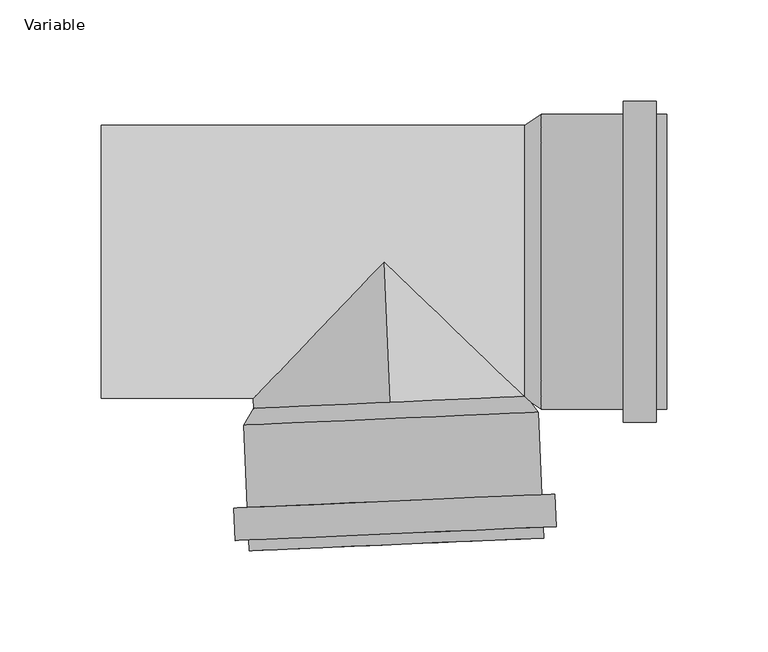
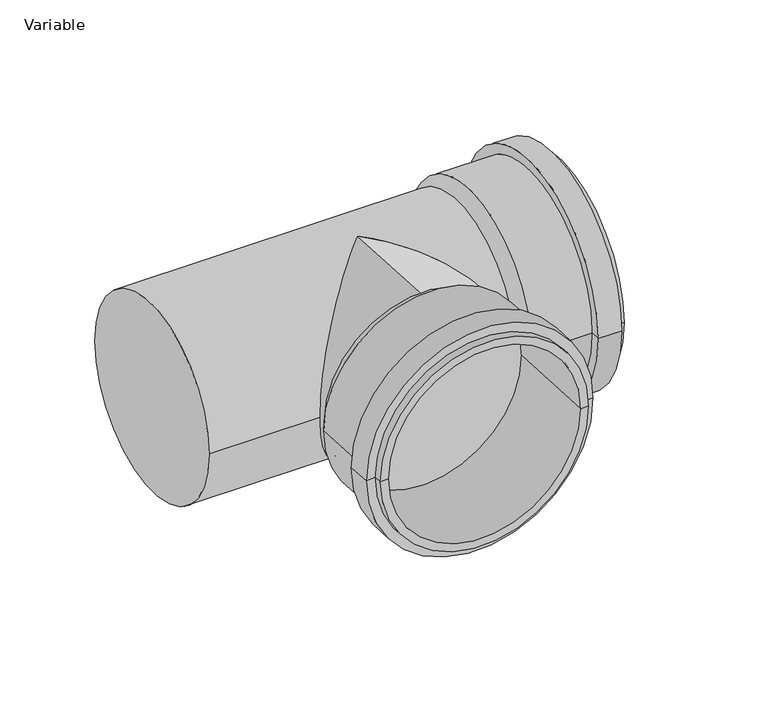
"""IFC4 building model written with IfcOpenShell, lengths in millimetres: pipe fitting geometry, AliaxisFR_Friaphon_Branch_FR : Variable."""

from ifc_helpers import new_model, si_unit, frame, origin, place, context, project, spatial, polyline, circle_curve, ellipse_curve, source, transform, mapped, element, save
from ifc_brep_helpers import plane_surface, cylinder_surface, revolved_surface, advanced_brep


def variable_329a7576(model_context):
    return source(origin(), model_context, "Body", "AdvancedBrep", [
        advanced_brep(
        [(-66.7239011, -143.0466044, 0.0), (78.9373296, -136.6868977, 0.0), (73.5424692, -136.9224424, 0.0), (-61.3290407, -142.8110597, 0.0), (-74.2554362, -121.8549556, 0.0), (84.593231, -114.919473, 0.0), (85.2955032, -131.0041493, 0.0), (-73.5531641, -137.9396319, 0.0), (-67.661718, -121.5670676, 0.0), (77.9995128, -115.2073609, 0.0), (-69.441389, -80.8059002, 0.0), (76.2198418, -74.4461935, 0.0), (70.4716643, -66.5894476, 0.0), (-64.3998456, -72.4780649, 0.0), (-66.9594458, -137.651744, 0.0), (78.7017849, -131.2920373, 0.0)],
        [
            (0, 1, circle_curve(frame((6.1067142, -139.866751, 0.0), z_axis=(0.04361938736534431, -0.9990482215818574, 0.0), x_axis=(0.9990482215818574, 0.04361938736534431, 0.0)), 72.9)),
            (1, 2),
            (2, 3, circle_curve(frame((6.1067142, -139.866751, 0.0), z_axis=(-0.04361938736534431, 0.9990482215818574, 0.0), x_axis=(0.9990482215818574, 0.04361938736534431, 0.0)), 67.5)),
            (3, 0),
            (1, 0, circle_curve(frame((6.1067142, -139.866751, 0.0), z_axis=(0.04361938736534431, -0.9990482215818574, 0.0), x_axis=(0.9990482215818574, 0.04361938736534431, 0.0)), 72.9)),
            (3, 2, circle_curve(frame((6.1067142, -139.866751, 0.0), z_axis=(-0.04361938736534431, 0.9990482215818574, 0.0), x_axis=(0.9990482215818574, 0.04361938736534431, 0.0)), 67.5)),
            (4, 5, circle_curve(frame((5.1688974, -118.3872143, 0.0), z_axis=(0.04361938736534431, -0.9990482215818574, 0.0), x_axis=(0.9990482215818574, 0.04361938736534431, 0.0)), 79.5)),
            (5, 6),
            (6, 7, circle_curve(frame((5.8711695, -134.4718906, 0.0), z_axis=(-0.04361938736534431, 0.9990482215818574, 0.0), x_axis=(0.9990482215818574, 0.04361938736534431, 0.0)), 79.5)),
            (7, 4),
            (5, 4, circle_curve(frame((5.1688974, -118.3872143, 0.0), z_axis=(0.04361938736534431, -0.9990482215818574, 0.0), x_axis=(0.9990482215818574, 0.04361938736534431, 0.0)), 79.5)),
            (7, 6, circle_curve(frame((5.8711695, -134.4718906, 0.0), z_axis=(-0.04361938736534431, 0.9990482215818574, 0.0), x_axis=(0.9990482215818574, 0.04361938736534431, 0.0)), 79.5)),
            (8, 9, circle_curve(frame((5.1688974, -118.3872143, 0.0), z_axis=(0.04361938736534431, -0.9990482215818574, 0.0), x_axis=(0.9990482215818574, 0.04361938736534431, 0.0)), 72.9)),
            (9, 5),
            (4, 8),
            (9, 8, circle_curve(frame((5.1688974, -118.3872143, 0.0), z_axis=(0.04361938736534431, -0.9990482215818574, 0.0), x_axis=(0.9990482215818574, 0.04361938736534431, 0.0)), 72.9)),
            (10, 11, circle_curve(frame((3.3892264, -77.6260468, 0.0), z_axis=(0.04361938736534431, -0.9990482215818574, 0.0), x_axis=(0.9990482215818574, 0.04361938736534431, 0.0)), 72.9)),
            (11, 9),
            (8, 10),
            (11, 10, circle_curve(frame((3.3892264, -77.6260468, 0.0), z_axis=(0.04361938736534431, -0.9990482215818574, 0.0), x_axis=(0.9990482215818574, 0.04361938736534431, 0.0)), 72.9)),
            (2, 12),
            (12, 13, circle_curve(frame((3.0359094, -69.5337562, 0.0), z_axis=(-0.04361938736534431, 0.9990482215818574, 0.0), x_axis=(0.9990482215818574, 0.04361938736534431, 0.0)), 67.5)),
            (13, 3),
            (13, 12, circle_curve(frame((3.0359094, -69.5337562, 0.0), z_axis=(-0.04361938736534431, 0.9990482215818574, 0.0), x_axis=(0.9990482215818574, 0.04361938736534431, 0.0)), 67.5)),
            (12, 11),
            (10, 13),
            (14, 15, circle_curve(frame((5.8711695, -134.4718906, 0.0), z_axis=(0.04361938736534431, -0.9990482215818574, 0.0), x_axis=(0.9990482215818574, 0.04361938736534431, 0.0)), 72.9)),
            (15, 1),
            (0, 14),
            (15, 14, circle_curve(frame((5.8711695, -134.4718906, 0.0), z_axis=(0.04361938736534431, -0.9990482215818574, 0.0), x_axis=(0.9990482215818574, 0.04361938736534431, 0.0)), 72.9)),
            (6, 15),
            (14, 7),
        ],
        [
            plane_surface(frame((6.1067142, -139.866751, 0.0), z_axis=(0.04361938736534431, -0.9990482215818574, 0.0), x_axis=(0.9990482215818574, 0.04361938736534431, 0.0))),
            cylinder_surface(frame((3.0359094, -69.5337562, 0.0), z_axis=(-0.04361938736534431, 0.9990482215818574, 0.0), x_axis=(0.9990482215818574, 0.04361938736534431, 0.0)), 79.5),
            plane_surface(frame((5.1688974, -118.3872143, 0.0), z_axis=(-0.04361938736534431, 0.9990482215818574, 0.0), x_axis=(0.9990482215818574, 0.04361938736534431, 0.0))),
            cylinder_surface(frame((3.0359094, -69.5337562, 0.0), z_axis=(-0.04361938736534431, 0.9990482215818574, 0.0), x_axis=(0.9990482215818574, 0.04361938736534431, 0.0)), 72.9),
            revolved_surface(polyline([(70.47166435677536, -66.58944755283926, 0.0), (73.54246922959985, -136.9224424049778, 0.0)]), (3.0359094, -69.5337562, 0.0), (-0.04361938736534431, 0.9990482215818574, 0.0)),
            revolved_surface(polyline([(76.2198418, -74.4461935, 0.0), (70.4716643, -66.5894476, 0.0)]), (3.0359094, -69.5337562, 0.0), (-0.04361938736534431, 0.9990482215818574, 0.0)),
            plane_surface(frame((5.8711695, -134.4718906, 0.0), z_axis=(0.04361938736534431, -0.9990482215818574, 0.0), x_axis=(0.9990482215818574, 0.04361938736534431, 0.0))),
        ],
        [
            (0, [[1, 2, 3, 4]]),
            (0, [[5, -4, 6, -2]]),
            (1, [[7, 8, 9, 10]]),
            (1, [[11, -10, 12, -8]]),
            (2, [[13, 14, -7, 15]]),
            (2, [[16, -15, -11, -14]]),
            (3, [[17, 18, -13, 19]]),
            (3, [[20, -19, -16, -18]]),
            (4, [[-3, 21, 22, 23]]),
            (4, [[-6, -23, 24, -21]]),
            (5, [[-22, 25, -17, 26]]),
            (5, [[-24, -26, -20, -25]]),
            (3, [[27, 28, -1, 29]]),
            (3, [[30, -29, -5, -28]]),
            (6, [[-9, 31, -27, 32]]),
            (6, [[-12, -32, -30, -31]]),
        ],
    ),
        advanced_brep(
        [(140.0, -72.9, 0.0), (140.0, 72.9, 0.0), (140.0, 67.5, 0.0), (140.0, -67.5, 0.0), (118.5, -79.5, 0.0), (118.5, 79.5, 0.0), (134.6, 79.5, 0.0), (134.6, -79.5, 0.0), (118.5, -72.9, 0.0), (118.5, 72.9, 0.0), (77.7, -72.9, 0.0), (77.7, 72.9, 0.0), (69.6, 67.5, 0.0), (69.6, -67.5, 0.0), (134.6, -72.9, 0.0), (134.6, 72.9, 0.0)],
        [
            (0, 1, circle_curve(frame((140.0, 0.0, 0.0), z_axis=(1.0, 0.0, 0.0), x_axis=(0.0, 1.0, 0.0)), 72.9)),
            (1, 2),
            (2, 3, circle_curve(frame((140.0, 0.0, 0.0), z_axis=(-1.0, 0.0, 0.0), x_axis=(0.0, 1.0, 0.0)), 67.5)),
            (3, 0),
            (1, 0, circle_curve(frame((140.0, 0.0, 0.0), z_axis=(1.0, 0.0, 0.0), x_axis=(0.0, 1.0, 0.0)), 72.9)),
            (3, 2, circle_curve(frame((140.0, 0.0, 0.0), z_axis=(-1.0, 0.0, 0.0), x_axis=(0.0, 1.0, 0.0)), 67.5)),
            (4, 5, circle_curve(frame((118.5, 0.0, 0.0), z_axis=(1.0, 0.0, 0.0), x_axis=(0.0, 1.0, 0.0)), 79.5)),
            (5, 6),
            (6, 7, circle_curve(frame((134.6, 0.0, 0.0), z_axis=(-1.0, 0.0, 0.0), x_axis=(0.0, 1.0, 0.0)), 79.5)),
            (7, 4),
            (5, 4, circle_curve(frame((118.5, 0.0, 0.0), z_axis=(1.0, 0.0, 0.0), x_axis=(0.0, 1.0, 0.0)), 79.5)),
            (7, 6, circle_curve(frame((134.6, 0.0, 0.0), z_axis=(-1.0, 0.0, 0.0), x_axis=(0.0, 1.0, 0.0)), 79.5)),
            (8, 9, circle_curve(frame((118.5, 0.0, 0.0), z_axis=(1.0, 0.0, 0.0), x_axis=(0.0, 1.0, 0.0)), 72.9)),
            (9, 5),
            (4, 8),
            (9, 8, circle_curve(frame((118.5, 0.0, 0.0), z_axis=(1.0, 0.0, 0.0), x_axis=(0.0, 1.0, 0.0)), 72.9)),
            (10, 11, circle_curve(frame((77.7, 0.0, 0.0), z_axis=(1.0, 0.0, 0.0), x_axis=(0.0, 1.0, 0.0)), 72.9)),
            (11, 9),
            (8, 10),
            (11, 10, circle_curve(frame((77.7, 0.0, 0.0), z_axis=(1.0, 0.0, 0.0), x_axis=(0.0, 1.0, 0.0)), 72.9)),
            (2, 12),
            (12, 13, circle_curve(frame((69.6, 0.0, 0.0), z_axis=(-1.0, 0.0, 0.0), x_axis=(0.0, 1.0, 0.0)), 67.5)),
            (13, 3),
            (13, 12, circle_curve(frame((69.6, 0.0, 0.0), z_axis=(-1.0, 0.0, 0.0), x_axis=(0.0, 1.0, 0.0)), 67.5)),
            (12, 11),
            (10, 13),
            (14, 15, circle_curve(frame((134.6, 0.0, 0.0), z_axis=(1.0, 0.0, 0.0), x_axis=(0.0, 1.0, 0.0)), 72.9)),
            (15, 1),
            (0, 14),
            (15, 14, circle_curve(frame((134.6, 0.0, 0.0), z_axis=(1.0, 0.0, 0.0), x_axis=(0.0, 1.0, 0.0)), 72.9)),
            (6, 15),
            (14, 7),
        ],
        [
            plane_surface(frame((140.0, 0.0, 0.0), z_axis=(1.0, 0.0, 0.0), x_axis=(0.0, 1.0, 0.0))),
            cylinder_surface(frame((69.6, 0.0, 0.0), z_axis=(-1.0, 0.0, 0.0), x_axis=(0.0, 1.0, 0.0)), 79.5),
            plane_surface(frame((118.5, 0.0, 0.0), z_axis=(-1.0, 0.0, 0.0), x_axis=(0.0, 1.0, 0.0))),
            cylinder_surface(frame((69.6, 0.0, 0.0), z_axis=(-1.0, 0.0, 0.0), x_axis=(0.0, 1.0, 0.0)), 72.9),
            revolved_surface(polyline([(69.6, 67.5, 0.0), (140.0, 67.5, 0.0)]), (69.6, 0.0, 0.0), (-1.0, 0.0, 0.0)),
            revolved_surface(polyline([(77.7, 72.9, 0.0), (69.6, 67.5, 0.0)]), (69.6, 0.0, 0.0), (-1.0, 0.0, 0.0)),
            plane_surface(frame((134.6, 0.0, 0.0), z_axis=(1.0, 0.0, 0.0), x_axis=(0.0, 1.0, 0.0))),
        ],
        [
            (0, [[1, 2, 3, 4]]),
            (0, [[5, -4, 6, -2]]),
            (1, [[7, 8, 9, 10]]),
            (1, [[11, -10, 12, -8]]),
            (2, [[13, 14, -7, 15]]),
            (2, [[16, -15, -11, -14]]),
            (3, [[17, 18, -13, 19]]),
            (3, [[20, -19, -16, -18]]),
            (4, [[-3, 21, 22, 23]]),
            (4, [[-6, -23, 24, -21]]),
            (5, [[-22, 25, -17, 26]]),
            (5, [[-24, -26, -20, -25]]),
            (3, [[27, 28, -1, 29]]),
            (3, [[30, -29, -5, -28]]),
            (6, [[-9, 31, -27, 32]]),
            (6, [[-12, -32, -30, -31]]),
        ],
    ),
        advanced_brep(
        [(75.0, -67.5, 0.0), (75.0, 67.5, 0.0), (-140.0, -67.5, 0.0), (-140.0, 67.5, 0.0), (70.5114199, -67.5, 0.0), (0.0, 0.0, -67.5), (-64.6171926, -67.5, 0.0), (0.0, 0.0, 67.5), (3.2714541, -74.9286166, -67.5), (3.2714541, -74.9286166, 67.5)],
        [
            (0, 1, circle_curve(frame((75.0, 0.0, 0.0), z_axis=(1.0, 0.0, 0.0), x_axis=(0.0, 1.0, 0.0)), 67.5)),
            (1, 0, circle_curve(frame((75.0, 0.0, 0.0), z_axis=(1.0, 0.0, 0.0), x_axis=(0.0, 1.0, 0.0)), 67.5)),
            (2, 3, circle_curve(frame((-140.0, 0.0, 0.0), z_axis=(-1.0, 0.0, 0.0), x_axis=(0.0, 1.0, 0.0)), 67.5)),
            (3, 2, circle_curve(frame((-140.0, 0.0, 0.0), z_axis=(-1.0, 0.0, 0.0), x_axis=(0.0, 1.0, 0.0)), 67.5)),
            (0, 4),
            (4, 5, ellipse_curve(frame((0.0, 0.0, 0.0), z_axis=(0.6915130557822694, 0.7223639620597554, 0.0), x_axis=(0.7223639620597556, -0.6915130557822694, 0.0)), 97.6120399, 67.5)),
            (5, 6, ellipse_curve(frame((0.0, 0.0, 0.0), z_axis=(-0.7223639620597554, 0.6915130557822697, 0.0), x_axis=(0.6915130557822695, 0.7223639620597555, 0.0)), 93.4431998, 67.5)),
            (6, 2),
            (3, 1),
            (6, 7, ellipse_curve(frame((0.0, 0.0, 0.0), z_axis=(-0.7223639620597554, 0.6915130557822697, 0.0), x_axis=(0.6915130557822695, 0.7223639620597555, 0.0)), 93.4431998, 67.5)),
            (7, 4, ellipse_curve(frame((0.0, 0.0, 0.0), z_axis=(0.6915130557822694, 0.7223639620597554, 0.0), x_axis=(0.7223639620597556, -0.6915130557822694, 0.0)), 97.6120399, 67.5)),
            (8, 9, circle_curve(frame((3.2714541, -74.9286166, 0.0), z_axis=(0.04361938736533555, -0.9990482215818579, 0.0), x_axis=(0.0, 0.0, 1.0)), 67.5)),
            (9, 8, circle_curve(frame((3.2714541, -74.9286166, 0.0), z_axis=(0.04361938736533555, -0.9990482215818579, 0.0), x_axis=(0.0, 0.0, 1.0)), 67.5)),
            (8, 5),
            (7, 9),
        ],
        [
            plane_surface(frame((75.0, 67.5, 0.0), z_axis=(1.0, 0.0, 0.0), x_axis=(0.0, 0.0, 1.0))),
            plane_surface(frame((-140.0, 67.5, 0.0), z_axis=(-1.0, 0.0, 0.0), x_axis=(0.0, 0.0, -1.0))),
            cylinder_surface(frame((-140.0, 0.0, 0.0), z_axis=(1.0, 0.0, 0.0), x_axis=(0.0, 1.0, 0.0)), 67.5),
            plane_surface(frame((3.2714541, -74.9286166, 67.5), z_axis=(0.043619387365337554, -0.9990482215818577, 0.0), x_axis=(-0.9990482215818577, -0.043619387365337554, 0.0))),
            cylinder_surface(frame((3.2714541, -74.9286166, 0.0), z_axis=(-0.04361938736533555, 0.9990482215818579, 0.0), x_axis=(0.0, 0.0, 1.0)), 67.5),
        ],
        [
            (0, [[1, 2]]),
            (1, [[3, 4]]),
            (2, [[-1, 5, 6, 7, 8, -4, 9]]),
            (2, [[-2, -9, -3, -8, 10, 11, -5]]),
            (3, [[12, 13]]),
            (4, [[-12, 14, -6, -11, 15]]),
            (4, [[-13, -15, -10, -7, -14]]),
        ],
    ),
    ])


if __name__ == "__main__":
    model = new_model("IFC4")
    model_context = context("Model", 3, world=origin())
    ifc_project = project(units=[si_unit("LENGTHUNIT", "METRE", prefix="MILLI")], contexts=[model_context])
    site = spatial("IfcSite", under=ifc_project)
    building = spatial("IfcBuilding", under=site)
    placement = place(None, origin())
    variable_shape = variable_329a7576(model_context)
    element("IfcPipeFitting", 1, ObjectType="AliaxisFR_Friaphon_Branch_FR : Variable", at=placement, inside=building, context=model_context, shape_type="MappedRepresentation", body=[
        mapped(variable_shape, transform((0.0, 0.0, 0.0), x_axis=(1.0, 0.0, 0.0), y_axis=(0.0, 1.0, 0.0), z_axis=(0.0, 0.0, 1.0))),
    ])
    save(model, "model.ifc")
